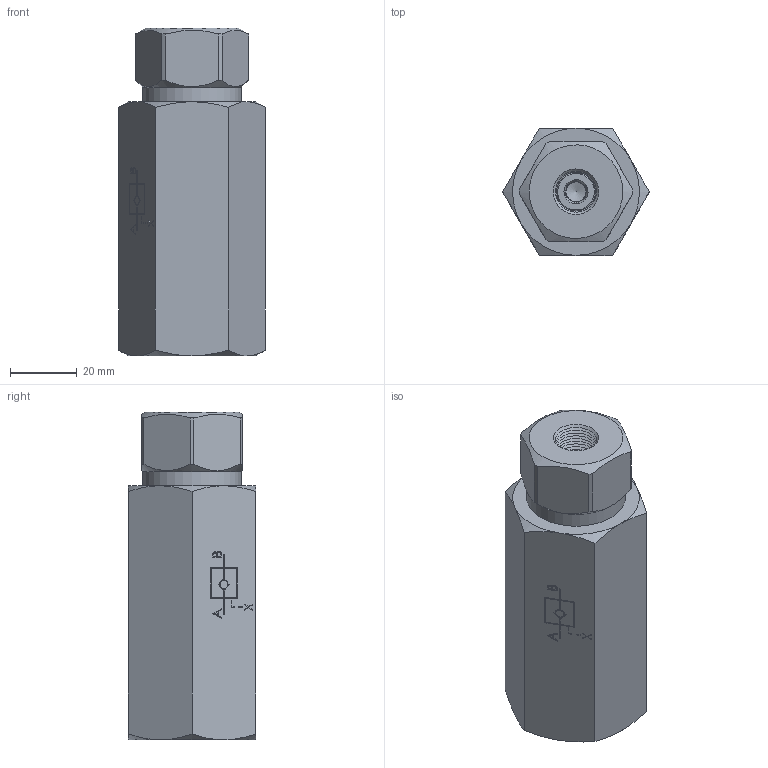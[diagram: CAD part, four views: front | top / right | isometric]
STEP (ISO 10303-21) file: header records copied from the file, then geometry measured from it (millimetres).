
FILE_DESCRIPTION (( 'STEP AP214' ), '1' );
FILE_NAME ('257-7-14.STEP', '2025-01-23T08:14:08', ( '' ), ( '' ), 'SwSTEP 2.0', 'SolidWorks 2024', '' );
FILE_SCHEMA (( 'AUTOMOTIVE_DESIGN' ));
Length unit declared in the file: millimetre
Products named in the file (9): PISTONE PILOTAGGIO 257-7.019.00.1-14; FONDELLO FILETTATO 257-5.010.00.0-14; CONNESSIONE UNIDIREZIONALE 257-7.033.00.0-14; VALVOLA UNIDIREZIONALE PILOTATA 257-7.041.00.0-14; 257-7-14; CORPO VALVOLA 257-7.001.00.0-14; MOLLA 5 BAR  257-6.009.00-0-14_COMPRESSA; VALVOLA TENUTA METALLICA 257-5.008.00.0-14; OR 2075
Assembly tree (8 placements, depth 3):
  257-7-14
    CORPO VALVOLA 257-7.001.00.0-14
    PISTONE PILOTAGGIO 257-7.019.00.1-14
    OR 2075
    VALVOLA UNIDIREZIONALE PILOTATA 257-7.041.00.0-14
      CONNESSIONE UNIDIREZIONALE 257-7.033.00.0-14
      FONDELLO FILETTATO 257-5.010.00.0-14
      VALVOLA TENUTA METALLICA 257-5.008.00.0-14
      MOLLA 5 BAR  257-6.009.00-0-14_COMPRESSA
Bounding box: 43.88 x 38 x 98 mm (x, y, z)
Volume: 100192.1 mm3; surface area: 31820.7 mm2
Topology: 7 solids, 7 shells, 627 faces, 1479 edges, 918 vertices
Faces by surface type: plane 281, cone 219, cylinder 75, bspline 49, torus 3
Full cylindrical faces by diameter (mm): 2.5 x6, 2.52 x1, 3.2 x1, 3.25 x4, 6 x1, 6.5 x2, 8.25 x1, 9 x1, 9.3 x3, 9.5 x1, 10 x5, 10.6 x4, 11 x6, 11.6 x1, 12.5 x1, 14 x1, 14.717 x1, 17.2 x3, 18 x5, 19 x2, 19.4 x1, 20.5 x2, 29.5 x1
Entity records: 21084 total; most frequent: CARTESIAN_POINT 7905, DIRECTION 2533, ORIENTED_EDGE 2364, EDGE_CURVE 1182, EDGE_LOOP 967, AXIS2_PLACEMENT_3D 945, VERTEX_POINT 881, FACE_OUTER_BOUND 684
